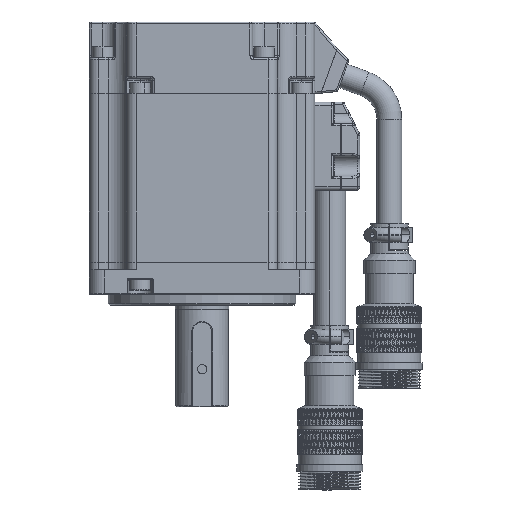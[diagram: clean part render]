
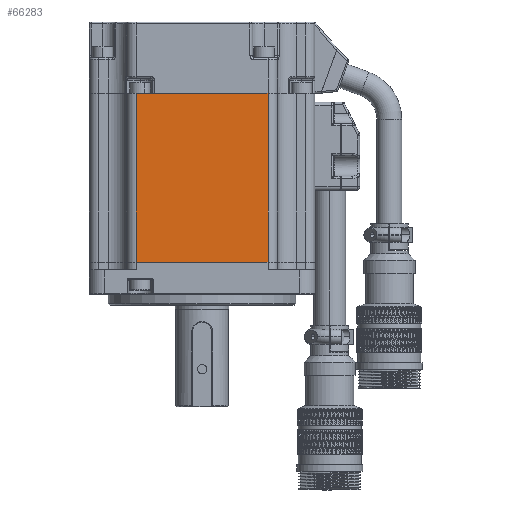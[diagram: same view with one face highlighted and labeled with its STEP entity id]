
A CAD part, left-side view. The second image highlights one B-rep face of the part: STEP entity #66283.
In plain terms, the highlighted planar face has unit normal (-1, 0, 0) as drawn and (1, 0, 0) by its records, which use the part's own axes.
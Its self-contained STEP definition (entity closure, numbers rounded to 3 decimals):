
#10622 = ORIENTED_EDGE ( 'NONE', *, *, #85383, .F. ) ;
#11749 = LINE ( 'NONE', #180572, #47339 ) ;
#23048 = CARTESIAN_POINT ( 'NONE',  ( 30., 17.55, 64. ) ) ;
#26409 = DIRECTION ( 'NONE',  ( 0., 0., 1. ) ) ;
#39398 = CARTESIAN_POINT ( 'NONE',  ( 30., 17.55, 64. ) ) ;
#42065 = VERTEX_POINT ( 'NONE', #94390 ) ;
#47339 = VECTOR ( 'NONE', #165004, 1000. ) ;
#51073 = DIRECTION ( 'NONE',  ( 0., -1., 0. ) ) ;
#52699 = EDGE_CURVE ( 'NONE', #150552, #110448, #11749, .T. ) ;
#56134 = CARTESIAN_POINT ( 'NONE',  ( 30., -17.55, 64. ) ) ;
#61040 = PLANE ( 'NONE',  #170767 ) ;
#66283 = ADVANCED_FACE ( 'NONE', ( #183481 ), #61040, .F. ) ;
#67675 = LINE ( 'NONE', #166478, #109942 ) ;
#80893 = CARTESIAN_POINT ( 'NONE',  ( 30., 17.55, 64. ) ) ;
#82339 = VECTOR ( 'NONE', #51073, 1000. ) ;
#85383 = EDGE_CURVE ( 'NONE', #110448, #42065, #105477, .T. ) ;
#94390 = CARTESIAN_POINT ( 'NONE',  ( 30., 17.55, 19. ) ) ;
#105477 = LINE ( 'NONE', #80893, #125315 ) ;
#106802 = DIRECTION ( 'NONE',  ( 0., 0., 1. ) ) ;
#109942 = VECTOR ( 'NONE', #26409, 1000. ) ;
#110448 = VERTEX_POINT ( 'NONE', #39398 ) ;
#112670 = CARTESIAN_POINT ( 'NONE',  ( 30., -17.55, 19. ) ) ;
#121051 = DIRECTION ( 'NONE',  ( -1., 0., 0. ) ) ;
#125315 = VECTOR ( 'NONE', #153215, 1000. ) ;
#133410 = EDGE_LOOP ( 'NONE', ( #140844, #10622, #179810, #147959 ) ) ;
#134651 = CARTESIAN_POINT ( 'NONE',  ( 30., 17.55, 19. ) ) ;
#140844 = ORIENTED_EDGE ( 'NONE', *, *, #182037, .F. ) ;
#144290 = LINE ( 'NONE', #134651, #82339 ) ;
#144573 = VERTEX_POINT ( 'NONE', #112670 ) ;
#147959 = ORIENTED_EDGE ( 'NONE', *, *, #164015, .F. ) ;
#150552 = VERTEX_POINT ( 'NONE', #56134 ) ;
#153215 = DIRECTION ( 'NONE',  ( 0., 0., -1. ) ) ;
#164015 = EDGE_CURVE ( 'NONE', #144573, #150552, #67675, .T. ) ;
#165004 = DIRECTION ( 'NONE',  ( 0., 1., 0. ) ) ;
#166478 = CARTESIAN_POINT ( 'NONE',  ( 30., -17.55, 64. ) ) ;
#170767 = AXIS2_PLACEMENT_3D ( 'NONE', #23048, #121051, #106802 ) ;
#179810 = ORIENTED_EDGE ( 'NONE', *, *, #52699, .F. ) ;
#180572 = CARTESIAN_POINT ( 'NONE',  ( 30., -25.05, 64. ) ) ;
#182037 = EDGE_CURVE ( 'NONE', #42065, #144573, #144290, .T. ) ;
#183481 = FACE_OUTER_BOUND ( 'NONE', #133410, .T. ) ;
